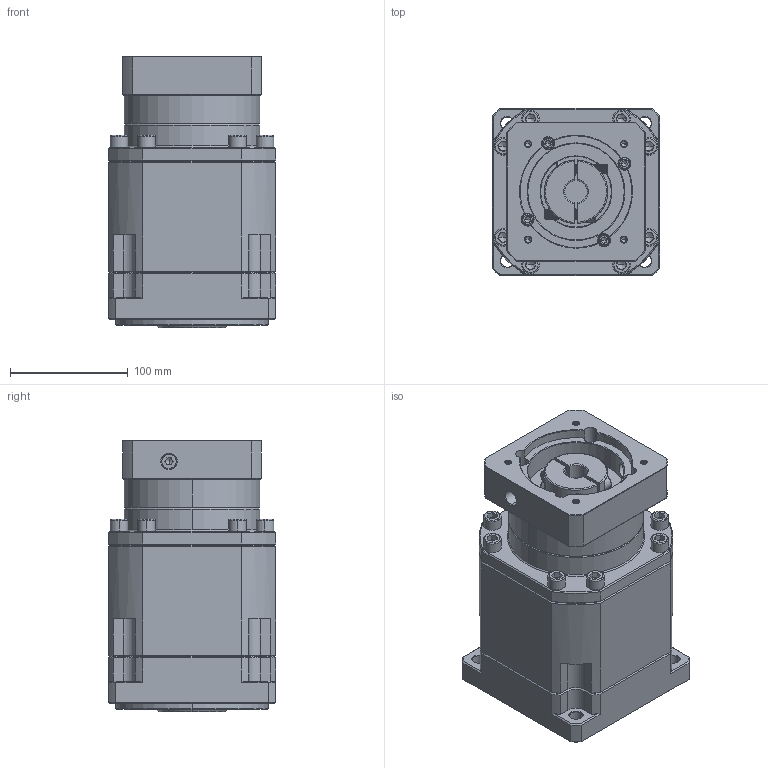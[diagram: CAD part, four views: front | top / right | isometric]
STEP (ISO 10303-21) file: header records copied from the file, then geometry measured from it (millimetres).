
FILE_DESCRIPTION (( 'STEP AP214' ), '1' );
FILE_NAME ('ZB142A-K35-L3-19-95-115-M6.step', '2023-03-18T07:08:43', ( '' ), ( '' ), 'SwSTEP 2.0', 'SolidWorks 2016', '' );
FILE_SCHEMA (( 'AUTOMOTIVE_DESIGN' ));
Length unit declared in the file: millimetre
Products named in the file (1): ZB142A-K35-L3-19-95-115-M6
Bounding box: 142 x 142 x 230.7 mm (x, y, z)
Volume: 3454722.3 mm3; surface area: 245387.1 mm2
Topology: 6 solids, 6 shells, 2220 faces, 5737 edges, 3633 vertices
Faces by surface type: plane 1018, cylinder 452, cone 394, bspline 320, torus 36
Entity records: 113126 total; most frequent: CARTESIAN_POINT 36977, ORIENTED_EDGE 11370, DIRECTION 9713, EDGE_CURVE 5685, VERTEX_POINT 3633, LINE 3531, VECTOR 3531, AXIS2_PLACEMENT_3D 3091
